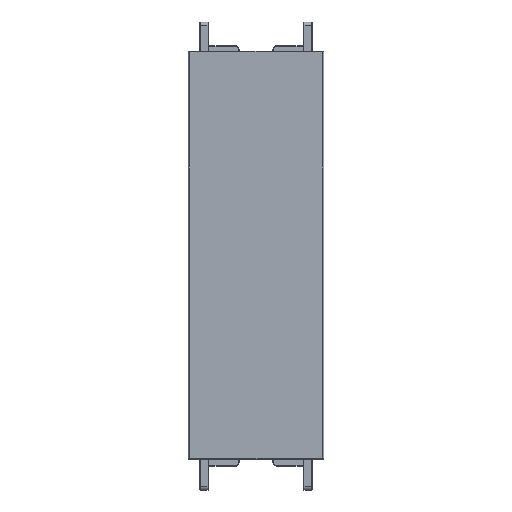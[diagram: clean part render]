
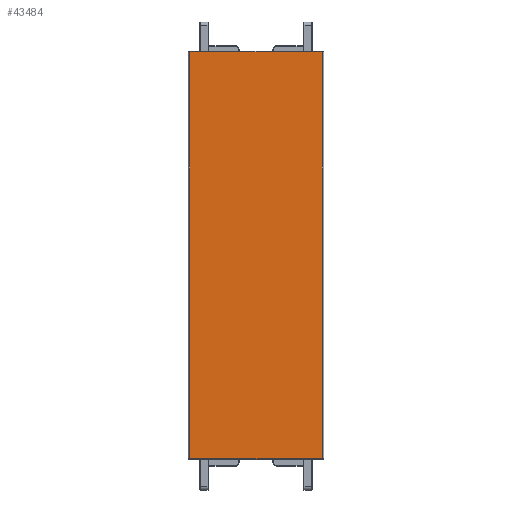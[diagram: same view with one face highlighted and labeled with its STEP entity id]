
A CAD part, top view. The second image highlights one B-rep face of the part: STEP entity #43484.
In plain terms, the highlighted planar face has unit normal (0, 0, 1) as drawn and (0, 0, -1) by its records, which use the part's own axes.
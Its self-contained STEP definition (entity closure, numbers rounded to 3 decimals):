
#320 = EDGE_CURVE ( 'NONE', #62160, #41300, #3150, .T. ) ;
#1822 = DIRECTION ( 'NONE',  ( -1., 0., 0. ) ) ;
#2147 = VECTOR ( 'NONE', #46726, 1000. ) ;
#2387 = VERTEX_POINT ( 'NONE', #32572 ) ;
#3150 = LINE ( 'NONE', #9020, #2147 ) ;
#7225 = ORIENTED_EDGE ( 'NONE', *, *, #320, .T. ) ;
#9020 = CARTESIAN_POINT ( 'NONE',  ( -19.5, 60., -2.5 ) ) ;
#11777 = CARTESIAN_POINT ( 'NONE',  ( 19.5, -59.9, -2.5 ) ) ;
#13228 = VERTEX_POINT ( 'NONE', #11777 ) ;
#17051 = EDGE_CURVE ( 'NONE', #13228, #62160, #36590, .T. ) ;
#17369 = CARTESIAN_POINT ( 'NONE',  ( -19.5, -59.9, -2.5 ) ) ;
#17731 = DIRECTION ( 'NONE',  ( 0., -1., 0. ) ) ;
#19658 = VECTOR ( 'NONE', #1822, 1000. ) ;
#22121 = EDGE_CURVE ( 'NONE', #41300, #2387, #64799, .T. ) ;
#23296 = ORIENTED_EDGE ( 'NONE', *, *, #22121, .T. ) ;
#24117 = DIRECTION ( 'NONE',  ( 1., 0., 0. ) ) ;
#24968 = ORIENTED_EDGE ( 'NONE', *, *, #31689, .T. ) ;
#25879 = DIRECTION ( 'NONE',  ( 1., 0., 0. ) ) ;
#26518 = CARTESIAN_POINT ( 'NONE',  ( -19.5, -59.9, -2.5 ) ) ;
#31689 = EDGE_CURVE ( 'NONE', #2387, #13228, #42061, .T. ) ;
#32572 = CARTESIAN_POINT ( 'NONE',  ( 19.5, 59.9, -2.5 ) ) ;
#36235 = DIRECTION ( 'NONE',  ( 0., 0., 1. ) ) ;
#36590 = LINE ( 'NONE', #26518, #19658 ) ;
#37234 = AXIS2_PLACEMENT_3D ( 'NONE', #49247, #36235, #24117 ) ;
#41300 = VERTEX_POINT ( 'NONE', #68069 ) ;
#42061 = LINE ( 'NONE', #62969, #44716 ) ;
#43484 = ADVANCED_FACE ( 'NONE', ( #74301 ), #67231, .F. ) ;
#44716 = VECTOR ( 'NONE', #17731, 1000. ) ;
#46726 = DIRECTION ( 'NONE',  ( 0., 1., 0. ) ) ;
#49247 = CARTESIAN_POINT ( 'NONE',  ( 0., 0., -2.5 ) ) ;
#62160 = VERTEX_POINT ( 'NONE', #17369 ) ;
#62969 = CARTESIAN_POINT ( 'NONE',  ( 19.5, -60., -2.5 ) ) ;
#64799 = LINE ( 'NONE', #77728, #72334 ) ;
#65410 = EDGE_LOOP ( 'NONE', ( #7225, #23296, #24968, #69429 ) ) ;
#67231 = PLANE ( 'NONE',  #37234 ) ;
#68069 = CARTESIAN_POINT ( 'NONE',  ( -19.5, 59.9, -2.5 ) ) ;
#69429 = ORIENTED_EDGE ( 'NONE', *, *, #17051, .T. ) ;
#72334 = VECTOR ( 'NONE', #25879, 1000. ) ;
#74301 = FACE_OUTER_BOUND ( 'NONE', #65410, .T. ) ;
#77728 = CARTESIAN_POINT ( 'NONE',  ( 19.5, 59.9, -2.5 ) ) ;
